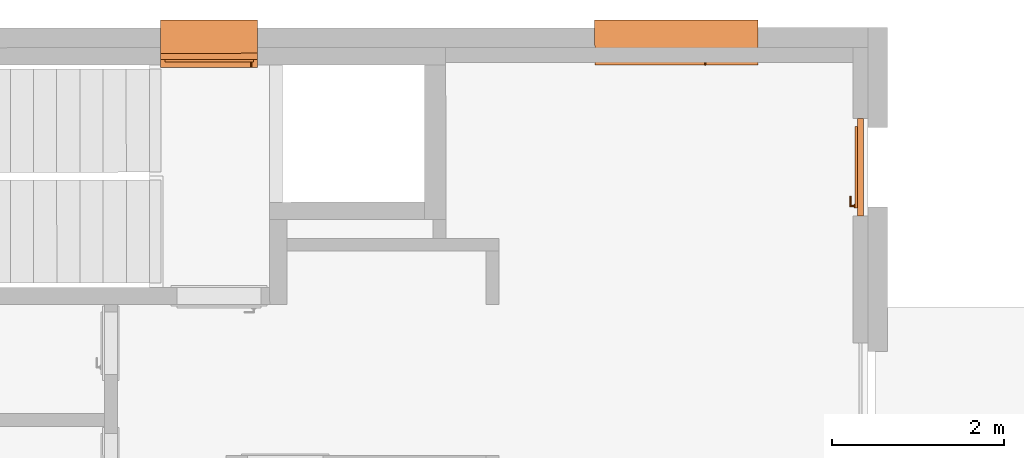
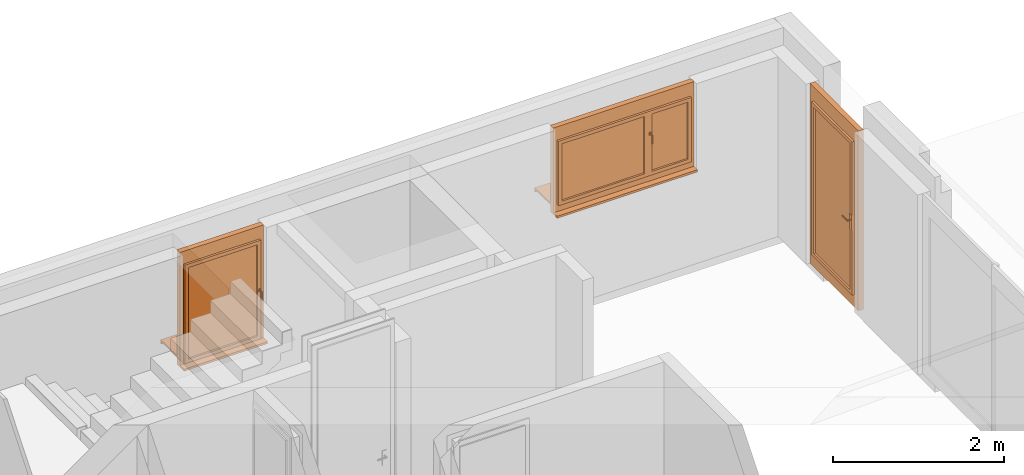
# One storey, part 8 of 8: 3 proxies.
"""IFC2X3 building model written with IfcOpenShell, lengths in metres."""

from ifc_helpers import new_model, entity, si_unit, converted_unit, derived_unit, direction, frame, origin, origin_with_axes, place, context, subcontext, project, spatial, closed_shell, open_shell, surface_model, source, transform, mapped, element, save


model = new_model("IFC2X3")

# Units and contexts
model_context = context("Model", 3, precision=1e-05, world=origin(), true_north=direction((0.772621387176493, -0.634867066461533)))
body_context = subcontext(model_context, "Body", "Model", "MODEL_VIEW")
ifc_project = project(units=[si_unit("LENGTHUNIT", "METRE"), si_unit("AREAUNIT", "SQUARE_METRE"), si_unit("VOLUMEUNIT", "CUBIC_METRE"), si_unit("MASSUNIT", "GRAM", prefix="KILO"), converted_unit("PLANEANGLEUNIT", "DEGREE", entity("IfcPlaneAngleMeasure", 0.0174532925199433), si_unit("PLANEANGLEUNIT", "RADIAN"), dimensions=[0, 0, 0, 0, 0, 0, 0]), derived_unit("THERMALTRANSMITTANCEUNIT", [(si_unit("POWERUNIT", "WATT"), 1), (si_unit("THERMODYNAMICTEMPERATUREUNIT", "KELVIN"), -1), (si_unit("LENGTHUNIT", "METRE"), -2)]), derived_unit("VOLUMETRICFLOWRATEUNIT", [(si_unit("LENGTHUNIT", "METRE"), 3), (converted_unit("TIMEUNIT", "hour", entity("IfcTimeMeasure", 3600.0), si_unit("TIMEUNIT", "SECOND"), dimensions=[0, 0, 1, 0, 0, 0, 0]), -1), (si_unit("LENGTHUNIT", "METRE"), -1)])], contexts=[model_context])

# Site, building, storey
site_placement = place(None, origin())
site = spatial("IfcSite", under=ifc_project, at=site_placement, Name="Modelle auf dem Nullpunkt", CompositionType="ELEMENT")
building_placement = place(site_placement, origin())
building = spatial("IfcBuilding", under=site, at=building_placement, Name="I", CompositionType="ELEMENT")
storey_placement = place(building_placement, origin())
storey = spatial("IfcBuildingStorey", under=building, at=storey_placement, Name="2.OG", CompositionType="ELEMENT", Elevation=0.0)

# Proxies
shared_shape_1 = source(origin_with_axes(), body_context, "Body", "SurfaceModel", [
    surface_model("IfcShellBasedSurfaceModel", [(1.90000000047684, 0.020000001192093, 0.1), (1.90000000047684, 0.020000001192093, 0.07), (1.90000000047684, 0.0, 0.07), (1.90000000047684, 0.0, 0.12), (1.9, 0.372500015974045, 0.13), (1.9, 0.372500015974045, 0.1), (0.0, 0.372500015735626, 0.1), (0.0, 0.372500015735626, 0.13), (0.0, 0.0, 0.12), (0.0, 0.0, 0.07), (0.0, 0.020000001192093, 0.07), (0.0, 0.020000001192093, 0.1)], [closed_shell([[[0, 1, 2, 3, 4, 5]], [[6, 7, 8, 9, 10, 11]], [[5, 6, 11, 0]], [[4, 7, 6, 5]], [[3, 8, 7, 4]], [[2, 9, 8, 3]], [[1, 10, 9, 2]], [[0, 11, 10, 1]]], orient=[[False], [False], [False], [False], [False], [False], [False], [False]])]),
    surface_model("IfcShellBasedSurfaceModel", [(1.90000000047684, 0.525000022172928, 0.0), (1.90000000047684, 0.412500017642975, 0.0), (1.90000000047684, 0.412500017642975, 0.03), (1.90000000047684, 0.525000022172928, 0.03), (0.0, 0.412500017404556, 0.0), (0.0, 0.525000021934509, 0.0), (0.0, 0.525000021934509, 0.03), (0.0, 0.412500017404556, 0.03)], [closed_shell([[[0, 1, 2, 3]], [[4, 5, 6, 7]], [[1, 0, 5, 4]], [[2, 1, 4, 7]], [[3, 2, 7, 6]], [[0, 3, 6, 5]]], orient=[[False], [False], [False], [False], [False], [False]])]),
    surface_model("IfcShellBasedSurfaceModel", [(1.90000000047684, 0.442500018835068, 1.24), (1.83000000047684, 0.442500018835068, 1.24), (1.83000000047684, 0.442500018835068, 0.0), (1.90000000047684, 0.442500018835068, 0.0), (1.9, 0.372500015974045, 0.0), (1.83000000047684, 0.372500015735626, 0.0), (1.83000000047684, 0.372500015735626, 1.24), (1.9, 0.372500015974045, 1.24)], [closed_shell([[[0, 1, 2, 3]], [[4, 5, 6, 7]], [[3, 4, 7, 0]], [[2, 5, 4, 3]], [[1, 6, 5, 2]], [[0, 7, 6, 1]]], orient=[[False], [False], [False], [False], [False], [False]])]),
    surface_model("IfcShellBasedSurfaceModel", [(0.07, 0.442500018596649, 1.24), (0.0, 0.442500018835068, 1.24), (0.0, 0.442500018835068, 0.0), (0.07, 0.442500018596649, 0.0), (0.07, 0.372500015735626, 0.0), (0.0, 0.372500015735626, 0.0), (0.0, 0.372500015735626, 1.24), (0.07, 0.372500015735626, 1.24)], [closed_shell([[[0, 1, 2, 3]], [[4, 5, 6, 7]], [[3, 4, 7, 0]], [[2, 5, 4, 3]], [[1, 6, 5, 2]], [[0, 7, 6, 1]]], orient=[[False], [False], [False], [False], [False], [False]])]),
    surface_model("IfcShellBasedSurfaceModel", [(1.83000000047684, 0.442500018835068, 0.15), (0.07, 0.442500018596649, 0.15), (0.07, 0.442500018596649, 0.0), (1.83000000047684, 0.442500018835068, 0.0), (1.83000000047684, 0.372500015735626, 0.0), (0.07, 0.372500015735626, 0.0), (0.07, 0.372500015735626, 0.15), (1.83000000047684, 0.372500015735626, 0.15)], [closed_shell([[[0, 1, 2, 3]], [[4, 5, 6, 7]], [[3, 4, 7, 0]], [[2, 5, 4, 3]], [[1, 6, 5, 2]], [[0, 7, 6, 1]]], orient=[[False], [False], [False], [False], [False], [False]])]),
    surface_model("IfcShellBasedSurfaceModel", [(1.83000000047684, 0.442500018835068, 1.24), (0.07, 0.442500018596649, 1.24), (0.07, 0.442500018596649, 1.03), (1.83000000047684, 0.442500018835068, 1.03), (1.83000000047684, 0.372500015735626, 1.03), (0.07, 0.372500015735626, 1.03), (0.07, 0.372500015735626, 1.24), (1.83000000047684, 0.372500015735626, 1.24)], [closed_shell([[[0, 1, 2, 3]], [[4, 5, 6, 7]], [[3, 4, 7, 0]], [[2, 5, 4, 3]], [[1, 6, 5, 2]], [[0, 7, 6, 1]]], orient=[[False], [False], [False], [False], [False], [False]])]),
    surface_model("IfcShellBasedSurfaceModel", [(1.85000000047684, 0.47250002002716, 1.05), (1.80000000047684, 0.47250002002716, 1.05), (1.80000000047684, 0.47250002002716, 0.13), (1.85000000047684, 0.47250002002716, 0.13), (1.85000000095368, 0.422500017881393, 0.13), (1.80000000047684, 0.422500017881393, 0.13), (1.80000000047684, 0.422500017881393, 1.05), (1.85000000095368, 0.422500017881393, 1.05)], [closed_shell([[[0, 1, 2, 3]], [[4, 5, 6, 7]], [[3, 4, 7, 0]], [[2, 5, 4, 3]], [[1, 6, 5, 2]], [[0, 7, 6, 1]]], orient=[[False], [False], [False], [False], [False], [False]])]),
    surface_model("IfcShellBasedSurfaceModel", [(0.688241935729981, 0.47250002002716, 1.05), (0.638241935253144, 0.47250002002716, 1.05), (0.638241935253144, 0.47250002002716, 0.13), (0.688241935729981, 0.47250002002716, 0.13), (0.688241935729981, 0.422500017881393, 0.13), (0.638241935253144, 0.422500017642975, 0.13), (0.638241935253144, 0.422500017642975, 1.05), (0.688241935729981, 0.422500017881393, 1.05)], [closed_shell([[[0, 1, 2, 3]], [[4, 5, 6, 7]], [[3, 4, 7, 0]], [[2, 5, 4, 3]], [[1, 6, 5, 2]], [[0, 7, 6, 1]]], orient=[[False], [False], [False], [False], [False], [False]])]),
    surface_model("IfcShellBasedSurfaceModel", [(1.80000000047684, 0.47250002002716, 0.18), (0.688241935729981, 0.47250002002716, 0.18), (0.688241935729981, 0.47250002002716, 0.13), (1.80000000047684, 0.47250002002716, 0.13), (1.80000000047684, 0.422500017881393, 0.13), (0.688241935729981, 0.422500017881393, 0.13), (0.688241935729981, 0.422500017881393, 0.18), (1.80000000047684, 0.422500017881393, 0.18)], [closed_shell([[[0, 1, 2, 3]], [[4, 5, 6, 7]], [[3, 4, 7, 0]], [[2, 5, 4, 3]], [[1, 6, 5, 2]], [[0, 7, 6, 1]]], orient=[[False], [False], [False], [False], [False], [False]])]),
    surface_model("IfcShellBasedSurfaceModel", [(1.80000000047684, 0.47250002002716, 1.05), (0.688241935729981, 0.47250002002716, 1.05), (0.688241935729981, 0.47250002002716, 1.0), (1.80000000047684, 0.47250002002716, 1.0), (1.80000000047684, 0.422500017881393, 1.0), (0.688241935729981, 0.422500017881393, 1.0), (0.688241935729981, 0.422500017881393, 1.05), (1.80000000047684, 0.422500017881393, 1.05)], [closed_shell([[[0, 1, 2, 3]], [[4, 5, 6, 7]], [[3, 4, 7, 0]], [[2, 5, 4, 3]], [[1, 6, 5, 2]], [[0, 7, 6, 1]]], orient=[[False], [False], [False], [False], [False], [False]])]),
    surface_model("IfcShellBasedSurfaceModel", [(0.663241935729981, 0.422500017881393, 1.03), (0.613241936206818, 0.422500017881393, 1.03), (0.613241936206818, 0.422500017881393, 0.15), (0.663241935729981, 0.422500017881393, 0.15), (0.663241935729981, 0.397500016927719, 0.15), (0.613241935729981, 0.397500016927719, 0.15), (0.613241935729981, 0.397500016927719, 1.03), (0.663241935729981, 0.397500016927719, 1.03)], [closed_shell([[[0, 1, 2, 3]], [[4, 5, 6, 7]], [[3, 4, 7, 0]], [[2, 5, 4, 3]], [[1, 6, 5, 2]], [[0, 7, 6, 1]]], orient=[[False], [False], [False], [False], [False], [False]])]),
    surface_model("IfcShellBasedSurfaceModel", [(0.637241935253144, 0.47250002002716, 1.05), (0.587241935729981, 0.47250002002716, 1.05), (0.587241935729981, 0.47250002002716, 0.13), (0.637241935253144, 0.47250002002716, 0.13), (0.637241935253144, 0.422500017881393, 0.13), (0.587241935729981, 0.422500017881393, 0.13), (0.587241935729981, 0.422500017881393, 1.05), (0.637241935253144, 0.422500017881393, 1.05)], [closed_shell([[[0, 1, 2, 3]], [[4, 5, 6, 7]], [[3, 4, 7, 0]], [[2, 5, 4, 3]], [[1, 6, 5, 2]], [[0, 7, 6, 1]]], orient=[[False], [False], [False], [False], [False], [False]])]),
    surface_model("IfcShellBasedSurfaceModel", [(0.1, 0.47250002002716, 1.05), (0.0499999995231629, 0.472500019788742, 1.05), (0.0499999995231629, 0.472500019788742, 0.13), (0.1, 0.47250002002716, 0.13), (0.1, 0.422500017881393, 0.13), (0.05, 0.422500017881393, 0.13), (0.05, 0.422500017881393, 1.05), (0.1, 0.422500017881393, 1.05)], [closed_shell([[[0, 1, 2, 3]], [[4, 5, 6, 7]], [[3, 4, 7, 0]], [[2, 5, 4, 3]], [[1, 6, 5, 2]], [[0, 7, 6, 1]]], orient=[[False], [False], [False], [False], [False], [False]])]),
    surface_model("IfcShellBasedSurfaceModel", [(0.587241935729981, 0.47250002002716, 0.18), (0.1, 0.47250002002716, 0.18), (0.1, 0.47250002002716, 0.13), (0.587241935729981, 0.47250002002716, 0.13), (0.587241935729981, 0.422500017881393, 0.13), (0.1, 0.422500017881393, 0.13), (0.1, 0.422500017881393, 0.18), (0.587241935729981, 0.422500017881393, 0.18)], [closed_shell([[[0, 1, 2, 3]], [[4, 5, 6, 7]], [[3, 4, 7, 0]], [[2, 5, 4, 3]], [[1, 6, 5, 2]], [[0, 7, 6, 1]]], orient=[[False], [False], [False], [False], [False], [False]])]),
    surface_model("IfcShellBasedSurfaceModel", [(0.587241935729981, 0.47250002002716, 1.05), (0.1, 0.47250002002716, 1.05), (0.1, 0.47250002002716, 1.0), (0.587241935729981, 0.47250002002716, 1.0), (0.587241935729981, 0.422500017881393, 1.0), (0.1, 0.422500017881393, 1.0), (0.1, 0.422500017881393, 1.05), (0.587241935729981, 0.422500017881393, 1.05)], [closed_shell([[[0, 1, 2, 3]], [[4, 5, 6, 7]], [[3, 4, 7, 0]], [[2, 5, 4, 3]], [[1, 6, 5, 2]], [[0, 7, 6, 1]]], orient=[[False], [False], [False], [False], [False], [False]])]),
    surface_model("IfcShellBasedSurfaceModel", [(0.624741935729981, 0.47250002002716, 0.75), (0.624741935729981, 0.47250002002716, 0.71), (0.599741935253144, 0.47250002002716, 0.71), (0.599741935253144, 0.47250002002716, 0.75), (0.624741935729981, 0.482500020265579, 0.71), (0.624741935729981, 0.482500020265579, 0.75), (0.599741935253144, 0.482500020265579, 0.75), (0.599741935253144, 0.482500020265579, 0.71)], [closed_shell([[[0, 1, 2, 3]], [[4, 5, 6, 7]], [[1, 0, 5, 4]], [[2, 1, 4, 7]], [[3, 2, 7, 6]], [[0, 3, 6, 5]]], orient=[[False], [False], [False], [False], [False], [False]])]),
    surface_model("IfcShellBasedSurfaceModel", [(0.602241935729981, 0.482500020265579, 0.73), (0.603581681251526, 0.482500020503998, 0.735), (0.607241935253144, 0.482500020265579, 0.738660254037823), (0.612241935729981, 0.482500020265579, 0.74), (0.617241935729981, 0.482500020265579, 0.738660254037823), (0.620902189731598, 0.482500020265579, 0.735), (0.622241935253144, 0.482500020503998, 0.73), (0.620902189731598, 0.482500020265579, 0.725), (0.617241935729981, 0.482500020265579, 0.721339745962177), (0.612241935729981, 0.482500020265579, 0.72), (0.607241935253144, 0.482500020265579, 0.721339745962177), (0.603581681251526, 0.482500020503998, 0.725), (0.602241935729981, 0.522500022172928, 0.73), (0.603581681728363, 0.527500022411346, 0.735), (0.607241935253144, 0.531160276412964, 0.738660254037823), (0.612241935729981, 0.532500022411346, 0.74), (0.617241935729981, 0.531160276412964, 0.738660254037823), (0.620902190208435, 0.527500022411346, 0.735), (0.622241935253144, 0.522500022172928, 0.73), (0.620902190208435, 0.51750002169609, 0.725), (0.617241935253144, 0.513839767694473, 0.721339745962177), (0.612241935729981, 0.51250002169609, 0.72), (0.607241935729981, 0.513839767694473, 0.721339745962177), (0.603581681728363, 0.517500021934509, 0.725), (0.602241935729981, 0.522500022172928, 0.615), (0.603581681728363, 0.517500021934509, 0.615), (0.607241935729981, 0.513839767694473, 0.615), (0.612241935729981, 0.51250002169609, 0.615), (0.617241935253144, 0.513839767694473, 0.615), (0.620902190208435, 0.51750002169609, 0.615), (0.622241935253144, 0.522500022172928, 0.615), (0.620902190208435, 0.527500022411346, 0.615), (0.617241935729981, 0.531160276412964, 0.615), (0.612241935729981, 0.532500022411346, 0.615), (0.607241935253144, 0.531160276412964, 0.615), (0.603581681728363, 0.527500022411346, 0.615)], [closed_shell([[[0, 1, 2, 3, 4, 5, 6, 7, 8, 9, 10, 11]], [[0, 12, 13, 1]], [[1, 13, 14, 2]], [[2, 14, 15, 3]], [[3, 15, 16, 4]], [[4, 16, 17, 5]], [[5, 17, 18, 6]], [[6, 18, 19, 7]], [[7, 19, 20, 8]], [[8, 20, 21, 9]], [[9, 21, 22, 10]], [[10, 22, 23, 11]], [[11, 23, 12, 0]], [[24, 25, 26, 27, 28, 29, 30, 31, 32, 33, 34, 35]], [[12, 24, 35, 13]], [[13, 35, 34, 14]], [[14, 34, 33, 15]], [[15, 33, 32, 16]], [[16, 32, 31, 17]], [[17, 31, 30, 18]], [[18, 30, 29, 19]], [[19, 29, 28, 20]], [[20, 28, 27, 21]], [[21, 27, 26, 22]], [[22, 26, 25, 23]], [[23, 25, 24, 12]]], orient=[[False], [False], [False], [False], [False], [False], [False], [False], [False], [False], [False], [False], [False], [False], [False], [False], [False], [False], [False], [False], [False], [False], [False], [False], [False], [False]])]),
    surface_model("IfcShellBasedSurfaceModel", [(1.80000000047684, 0.447500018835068, 0.18), (1.80000000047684, 0.447500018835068, 1.0), (0.688241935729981, 0.447500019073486, 1.0), (0.688241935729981, 0.447500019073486, 0.18)], [open_shell([[[0, 1, 2, 3]]], orient=[[False]])]),
    surface_model("IfcShellBasedSurfaceModel", [(0.587241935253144, 0.447500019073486, 0.18), (0.587241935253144, 0.447500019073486, 1.0), (0.1, 0.447500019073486, 1.0), (0.1, 0.447500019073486, 0.18)], [open_shell([[[0, 1, 2, 3]]], orient=[[False]])]),
])
proxy_1_placement = place(storey_placement, frame((39.7468340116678, 2.46028323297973, 443.0), z_axis=(0.0, 0.0, 1.0), x_axis=(-0.999999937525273, -0.000353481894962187, 0.0)))
element("IfcBuildingElementProxy", 1, at=proxy_1_placement, inside=storey, Name="2flg Weiß Stulp", context=body_context, shape_type="MappedRepresentation", body=[
    mapped(shared_shape_1, transform((0.0, 0.0, 0.0), x_axis=(1.0, 0.0, 0.0), y_axis=(0.0, 1.0, 0.0), z_axis=(0.0, 0.0, 1.0), scale=1.0)),
])
shared_shape_2 = source(origin_with_axes(), body_context, "Body", "SurfaceModel", [
    surface_model("IfcShellBasedSurfaceModel", [(0.0, 0.0199999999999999, 0.1), (0.0, 0.385, 0.1), (0.0, 0.385, 0.13), (0.0, 0.0, 0.12), (0.0, 0.0, 0.07), (0.0, 0.0199999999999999, 0.07), (1.13, 0.385, 0.1), (1.13, 0.0199999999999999, 0.1), (1.13, 0.0199999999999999, 0.0700000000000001), (1.13, 0.0, 0.0700000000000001), (1.13, 0.0, 0.12), (1.13, 0.385, 0.13)], [closed_shell([[[0, 1, 2, 3, 4, 5]], [[6, 7, 8, 9, 10, 11]], [[1, 0, 7, 6]], [[2, 1, 6, 11]], [[3, 2, 11, 10]], [[4, 3, 10, 9]], [[5, 4, 9, 8]], [[0, 5, 8, 7]]], orient=[[False], [False], [False], [False], [False], [False], [False], [False]])]),
    surface_model("IfcShellBasedSurfaceModel", [(0.0, 0.55, 0.0), (0.0, 0.55, 0.03), (0.0, 0.425, 0.03), (0.0, 0.425, 0.0), (1.13, 0.425, 0.0), (1.13, 0.425, 0.0300000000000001), (1.13, 0.55, 0.0300000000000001), (1.13, 0.55, 0.0)], [closed_shell([[[0, 1, 2, 3]], [[4, 5, 6, 7]], [[3, 4, 7, 0]], [[2, 5, 4, 3]], [[1, 6, 5, 2]], [[0, 7, 6, 1]]], orient=[[False], [False], [False], [False], [False], [False]])]),
    surface_model("IfcShellBasedSurfaceModel", [(0.0, 0.455, 1.64), (0.0, 0.455, 0.0), (0.07, 0.455, 0.0), (0.07, 0.455, 1.64), (0.0, 0.385, 0.0), (0.0, 0.385, 1.64), (0.07, 0.385, 1.64), (0.07, 0.385, 0.0)], [closed_shell([[[0, 1, 2, 3]], [[4, 5, 6, 7]], [[1, 0, 5, 4]], [[2, 1, 4, 7]], [[3, 2, 7, 6]], [[0, 3, 6, 5]]], orient=[[False], [False], [False], [False], [False], [False]])]),
    surface_model("IfcShellBasedSurfaceModel", [(1.06, 0.455, 1.64), (1.06, 0.455, 0.0), (1.13, 0.455, 0.0), (1.13, 0.455, 1.64), (1.06, 0.385, 0.0), (1.06, 0.385, 1.64), (1.13, 0.385, 1.64), (1.13, 0.385, 0.0)], [closed_shell([[[0, 1, 2, 3]], [[4, 5, 6, 7]], [[1, 0, 5, 4]], [[2, 1, 4, 7]], [[3, 2, 7, 6]], [[0, 3, 6, 5]]], orient=[[False], [False], [False], [False], [False], [False]])]),
    surface_model("IfcShellBasedSurfaceModel", [(0.07, 0.455, 0.07), (0.07, 0.455, 0.0), (1.06, 0.455, 0.0), (1.06, 0.455, 0.07), (0.07, 0.385, 0.0), (0.07, 0.385, 0.07), (1.06, 0.385, 0.07), (1.06, 0.385, 0.0)], [closed_shell([[[0, 1, 2, 3]], [[4, 5, 6, 7]], [[1, 0, 5, 4]], [[2, 1, 4, 7]], [[3, 2, 7, 6]], [[0, 3, 6, 5]]], orient=[[False], [False], [False], [False], [False], [False]])]),
    surface_model("IfcShellBasedSurfaceModel", [(0.07, 0.455, 1.64), (0.07, 0.455, 1.44), (1.06, 0.455, 1.44), (1.06, 0.455, 1.64), (0.07, 0.385, 1.44), (0.07, 0.385, 1.64), (1.06, 0.385, 1.64), (1.06, 0.385, 1.44)], [closed_shell([[[0, 1, 2, 3]], [[4, 5, 6, 7]], [[1, 0, 5, 4]], [[2, 1, 4, 7]], [[3, 2, 7, 6]], [[0, 3, 6, 5]]], orient=[[False], [False], [False], [False], [False], [False]])]),
    surface_model("IfcShellBasedSurfaceModel", [(0.05, 0.485, 1.46), (0.05, 0.485, 0.05), (0.1, 0.485, 0.05), (0.1, 0.485, 1.46), (0.05, 0.435, 0.05), (0.05, 0.435, 1.46), (0.1, 0.435, 1.46), (0.1, 0.435, 0.05)], [closed_shell([[[0, 1, 2, 3]], [[4, 5, 6, 7]], [[1, 0, 5, 4]], [[2, 1, 4, 7]], [[3, 2, 7, 6]], [[0, 3, 6, 5]]], orient=[[False], [False], [False], [False], [False], [False]])]),
    surface_model("IfcShellBasedSurfaceModel", [(1.03, 0.485, 1.46), (1.03, 0.485, 0.05), (1.08, 0.485, 0.05), (1.08, 0.485, 1.46), (1.03, 0.435, 0.05), (1.03, 0.435, 1.46), (1.08, 0.435, 1.46), (1.08, 0.435, 0.05)], [closed_shell([[[0, 1, 2, 3]], [[4, 5, 6, 7]], [[1, 0, 5, 4]], [[2, 1, 4, 7]], [[3, 2, 7, 6]], [[0, 3, 6, 5]]], orient=[[False], [False], [False], [False], [False], [False]])]),
    surface_model("IfcShellBasedSurfaceModel", [(0.1, 0.485, 0.1), (0.1, 0.485, 0.05), (1.03, 0.485, 0.05), (1.03, 0.485, 0.1), (0.1, 0.435, 0.05), (0.1, 0.435, 0.1), (1.03, 0.435, 0.1), (1.03, 0.435, 0.05)], [closed_shell([[[0, 1, 2, 3]], [[4, 5, 6, 7]], [[1, 0, 5, 4]], [[2, 1, 4, 7]], [[3, 2, 7, 6]], [[0, 3, 6, 5]]], orient=[[False], [False], [False], [False], [False], [False]])]),
    surface_model("IfcShellBasedSurfaceModel", [(0.1, 0.485, 1.46), (0.1, 0.485, 1.41), (1.03, 0.485, 1.41), (1.03, 0.485, 1.46), (0.1, 0.435, 1.41), (0.1, 0.435, 1.46), (1.03, 0.435, 1.46), (1.03, 0.435, 1.41)], [closed_shell([[[0, 1, 2, 3]], [[4, 5, 6, 7]], [[1, 0, 5, 4]], [[2, 1, 4, 7]], [[3, 2, 7, 6]], [[0, 3, 6, 5]]], orient=[[False], [False], [False], [False], [False], [False]])]),
    surface_model("IfcShellBasedSurfaceModel", [(0.0625, 0.485, 0.775), (0.0875, 0.485, 0.775), (0.0875, 0.485, 0.735), (0.0625, 0.485, 0.735), (0.0625, 0.495, 0.735), (0.0875, 0.495, 0.735), (0.0875, 0.495, 0.775), (0.0625, 0.495, 0.775)], [closed_shell([[[0, 1, 2, 3]], [[4, 5, 6, 7]], [[3, 4, 7, 0]], [[2, 5, 4, 3]], [[1, 6, 5, 2]], [[0, 7, 6, 1]]], orient=[[False], [False], [False], [False], [False], [False]])]),
    surface_model("IfcShellBasedSurfaceModel", [(0.085, 0.495, 0.755), (0.0836602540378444, 0.495, 0.75), (0.08, 0.495, 0.746339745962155), (0.075, 0.495, 0.745), (0.07, 0.495, 0.746339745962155), (0.0663397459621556, 0.495, 0.75), (0.065, 0.495, 0.755), (0.0663397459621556, 0.495, 0.76), (0.07, 0.495, 0.763660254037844), (0.075, 0.495, 0.765), (0.08, 0.495, 0.763660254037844), (0.0836602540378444, 0.495, 0.76), (0.0836602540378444, 0.54, 0.76), (0.085, 0.535, 0.755), (0.08, 0.543660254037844, 0.763660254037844), (0.075, 0.545, 0.765), (0.07, 0.543660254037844, 0.763660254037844), (0.0663397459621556, 0.54, 0.76), (0.065, 0.535, 0.755), (0.0663397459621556, 0.53, 0.75), (0.07, 0.526339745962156, 0.746339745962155), (0.075, 0.525, 0.745), (0.08, 0.526339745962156, 0.746339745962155), (0.0836602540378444, 0.53, 0.75), (0.085, 0.535, 0.64), (0.0836602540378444, 0.54, 0.64), (0.08, 0.543660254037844, 0.64), (0.075, 0.545, 0.64), (0.07, 0.543660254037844, 0.64), (0.0663397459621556, 0.54, 0.64), (0.065, 0.535, 0.64), (0.0663397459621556, 0.53, 0.64), (0.07, 0.526339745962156, 0.64), (0.075, 0.525, 0.64), (0.08, 0.526339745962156, 0.64), (0.0836602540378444, 0.53, 0.64)], [closed_shell([[[0, 1, 2, 3, 4, 5, 6, 7, 8, 9, 10, 11]], [[0, 11, 12, 13]], [[11, 10, 14, 12]], [[10, 9, 15, 14]], [[9, 8, 16, 15]], [[8, 7, 17, 16]], [[7, 6, 18, 17]], [[6, 5, 19, 18]], [[5, 4, 20, 19]], [[4, 3, 21, 20]], [[3, 2, 22, 21]], [[2, 1, 23, 22]], [[1, 0, 13, 23]], [[24, 25, 26, 27, 28, 29, 30, 31, 32, 33, 34, 35]], [[13, 12, 25, 24]], [[12, 14, 26, 25]], [[14, 15, 27, 26]], [[15, 16, 28, 27]], [[16, 17, 29, 28]], [[17, 18, 30, 29]], [[18, 19, 31, 30]], [[19, 20, 32, 31]], [[20, 21, 33, 32]], [[21, 22, 34, 33]], [[22, 23, 35, 34]], [[23, 13, 24, 35]]], orient=[[False], [False], [False], [False], [False], [False], [False], [False], [False], [False], [False], [False], [False], [False], [False], [False], [False], [False], [False], [False], [False], [False], [False], [False], [False], [False]])]),
    surface_model("IfcShellBasedSurfaceModel", [(0.1, 0.46, 0.1), (1.03, 0.46, 0.1), (1.03, 0.46, 1.41), (0.1, 0.46, 1.41)], [open_shell([[[0, 1, 2, 3]]], orient=[[False]])]),
])
proxy_2_placement = place(storey_placement, frame((33.921834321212, 2.4582241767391, 442.6), z_axis=(0.0, 0.0, 1.00000000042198), x_axis=(-0.999999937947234, -0.000353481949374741, 0.0)))
element("IfcBuildingElementProxy", 2, at=proxy_2_placement, inside=storey, Name="2flg Weiß Stulp", context=body_context, shape_type="MappedRepresentation", body=[
    mapped(shared_shape_2, transform((0.0, 0.0, 0.0), x_axis=(1.0, 0.0, 0.0), y_axis=(0.0, 1.0, 0.0), z_axis=(0.0, 0.0, 1.0), scale=1.00000000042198)),
])
shared_shape_3 = source(origin_with_axes(), body_context, "Body", "SurfaceModel", [
    surface_model("IfcShellBasedSurfaceModel", [(0.0, 0.0699999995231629, 2.57), (0.0, 0.0699999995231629, 0.0), (0.10999999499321, 0.0699999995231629, 0.0), (0.10999999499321, 0.0699999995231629, 2.57), (0.0, 0.0, 0.0), (0.0, 0.0, 2.57), (0.10999999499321, 0.0, 2.57), (0.10999999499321, 0.0, 0.0)], [closed_shell([[[0, 1, 2, 3]], [[4, 5, 6, 7]], [[1, 0, 5, 4]], [[2, 1, 4, 7]], [[3, 2, 7, 6]], [[0, 3, 6, 5]]], orient=[[False], [False], [False], [False], [False], [False]])]),
    surface_model("IfcShellBasedSurfaceModel", [(1.01999999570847, 0.0699999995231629, 2.57), (1.01999999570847, 0.0699999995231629, 0.0), (1.12999999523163, 0.07, 0.0), (1.12999999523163, 0.07, 2.57), (1.01999999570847, 0.0, 0.0), (1.01999999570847, 0.0, 2.57), (1.12999999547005, 0.0, 2.57), (1.12999999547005, 0.0, 0.0)], [closed_shell([[[0, 1, 2, 3]], [[4, 5, 6, 7]], [[1, 0, 5, 4]], [[2, 1, 4, 7]], [[3, 2, 7, 6]], [[0, 3, 6, 5]]], orient=[[False], [False], [False], [False], [False], [False]])]),
    surface_model("IfcShellBasedSurfaceModel", [(0.10999999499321, 0.0699999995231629, 0.2), (0.10999999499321, 0.0699999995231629, 0.0), (1.01999999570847, 0.0699999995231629, 0.0), (1.01999999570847, 0.0699999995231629, 0.2), (0.10999999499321, 0.0, 0.0), (0.10999999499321, 0.0, 0.2), (1.01999999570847, 0.0, 0.2), (1.01999999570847, 0.0, 0.0)], [closed_shell([[[0, 1, 2, 3]], [[4, 5, 6, 7]], [[1, 0, 5, 4]], [[2, 1, 4, 7]], [[3, 2, 7, 6]], [[0, 3, 6, 5]]], orient=[[False], [False], [False], [False], [False], [False]])]),
    surface_model("IfcShellBasedSurfaceModel", [(0.10999999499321, 0.0699999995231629, 2.57), (0.10999999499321, 0.0699999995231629, 2.35), (1.01999999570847, 0.0699999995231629, 2.35), (1.01999999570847, 0.0699999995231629, 2.57), (0.10999999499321, 0.0, 2.35), (0.10999999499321, 0.0, 2.57), (1.01999999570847, 0.0, 2.57), (1.01999999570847, 0.0, 2.35)], [closed_shell([[[0, 1, 2, 3]], [[4, 5, 6, 7]], [[1, 0, 5, 4]], [[2, 1, 4, 7]], [[3, 2, 7, 6]], [[0, 3, 6, 5]]], orient=[[False], [False], [False], [False], [False], [False]])]),
    surface_model("IfcShellBasedSurfaceModel", [(0.0899999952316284, 0.0999999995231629, 2.37), (0.0899999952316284, 0.0999999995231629, 0.18), (0.13999999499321, 0.0999999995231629, 0.18), (0.13999999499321, 0.0999999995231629, 2.37), (0.0899999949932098, 0.0499999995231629, 0.18), (0.0899999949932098, 0.0499999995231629, 2.37), (0.139999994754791, 0.0499999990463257, 2.37), (0.139999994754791, 0.0499999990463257, 0.18)], [closed_shell([[[0, 1, 2, 3]], [[4, 5, 6, 7]], [[1, 0, 5, 4]], [[2, 1, 4, 7]], [[3, 2, 7, 6]], [[0, 3, 6, 5]]], orient=[[False], [False], [False], [False], [False], [False]])]),
    surface_model("IfcShellBasedSurfaceModel", [(0.989999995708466, 0.0999999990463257, 2.37), (0.989999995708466, 0.0999999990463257, 0.18), (1.03999999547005, 0.0999999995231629, 0.18), (1.03999999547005, 0.0999999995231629, 2.37), (0.989999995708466, 0.0499999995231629, 0.18), (0.989999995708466, 0.0499999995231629, 2.37), (1.03999999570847, 0.0499999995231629, 2.37), (1.03999999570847, 0.0499999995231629, 0.18)], [closed_shell([[[0, 1, 2, 3]], [[4, 5, 6, 7]], [[1, 0, 5, 4]], [[2, 1, 4, 7]], [[3, 2, 7, 6]], [[0, 3, 6, 5]]], orient=[[False], [False], [False], [False], [False], [False]])]),
    surface_model("IfcShellBasedSurfaceModel", [(0.13999999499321, 0.0999999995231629, 0.23), (0.13999999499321, 0.0999999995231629, 0.18), (0.989999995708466, 0.0999999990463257, 0.18), (0.989999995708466, 0.0999999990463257, 0.23), (0.139999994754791, 0.0499999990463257, 0.18), (0.139999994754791, 0.0499999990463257, 0.23), (0.989999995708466, 0.0499999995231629, 0.23), (0.989999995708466, 0.0499999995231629, 0.18)], [closed_shell([[[0, 1, 2, 3]], [[4, 5, 6, 7]], [[1, 0, 5, 4]], [[2, 1, 4, 7]], [[3, 2, 7, 6]], [[0, 3, 6, 5]]], orient=[[False], [False], [False], [False], [False], [False]])]),
    surface_model("IfcShellBasedSurfaceModel", [(0.13999999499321, 0.0999999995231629, 2.37), (0.13999999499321, 0.0999999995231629, 2.32), (0.989999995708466, 0.0999999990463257, 2.32), (0.989999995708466, 0.0999999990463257, 2.37), (0.139999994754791, 0.0499999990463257, 2.32), (0.139999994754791, 0.0499999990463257, 2.37), (0.989999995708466, 0.0499999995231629, 2.37), (0.989999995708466, 0.0499999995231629, 2.32)], [closed_shell([[[0, 1, 2, 3]], [[4, 5, 6, 7]], [[1, 0, 5, 4]], [[2, 1, 4, 7]], [[3, 2, 7, 6]], [[0, 3, 6, 5]]], orient=[[False], [False], [False], [False], [False], [False]])]),
    surface_model("IfcShellBasedSurfaceModel", [(0.0899999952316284, 0.0999999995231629, 1.325), (0.13999999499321, 0.0999999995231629, 1.325), (0.13999999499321, 0.0999999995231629, 1.11), (0.0899999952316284, 0.0999999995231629, 1.11), (0.0899999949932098, 0.109999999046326, 1.11), (0.13999999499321, 0.109999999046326, 1.11), (0.13999999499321, 0.109999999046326, 1.325), (0.0899999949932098, 0.109999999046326, 1.325)], [closed_shell([[[0, 1, 2, 3]], [[4, 5, 6, 7]], [[3, 4, 7, 0]], [[2, 5, 4, 3]], [[1, 6, 5, 2]], [[0, 7, 6, 1]]], orient=[[False], [False], [False], [False], [False], [False]])]),
    surface_model("IfcShellBasedSurfaceModel", [(0.11499999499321, 0.109999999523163, 1.26), (0.119999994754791, 0.109999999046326, 1.25866025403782), (0.123660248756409, 0.109999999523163, 1.255), (0.12499999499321, 0.109999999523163, 1.25), (0.123660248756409, 0.109999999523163, 1.245), (0.119999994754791, 0.109999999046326, 1.24133974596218), (0.11499999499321, 0.109999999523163, 1.24), (0.10999999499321, 0.109999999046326, 1.24133974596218), (0.106339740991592, 0.109999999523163, 1.245), (0.10499999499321, 0.109999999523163, 1.25), (0.106339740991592, 0.109999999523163, 1.255), (0.10999999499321, 0.109999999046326, 1.25866025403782), (0.109999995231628, 0.154999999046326, 1.25866025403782), (0.114999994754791, 0.149999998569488, 1.26), (0.106339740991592, 0.158660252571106, 1.255), (0.10499999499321, 0.159999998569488, 1.25), (0.106339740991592, 0.158660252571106, 1.245), (0.109999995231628, 0.154999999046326, 1.24133974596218), (0.114999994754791, 0.149999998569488, 1.24), (0.11999999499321, 0.144999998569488, 1.24133974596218), (0.123660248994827, 0.141339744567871, 1.245), (0.12499999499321, 0.139999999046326, 1.25), (0.123660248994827, 0.141339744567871, 1.255), (0.11999999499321, 0.144999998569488, 1.25866025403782), (0.229999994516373, 0.149999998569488, 1.26), (0.229999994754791, 0.154999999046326, 1.25866025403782), (0.229999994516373, 0.158660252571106, 1.255), (0.229999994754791, 0.159999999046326, 1.25), (0.229999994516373, 0.158660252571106, 1.245), (0.229999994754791, 0.154999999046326, 1.24133974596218), (0.229999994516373, 0.149999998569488, 1.24), (0.229999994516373, 0.144999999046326, 1.24133974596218), (0.229999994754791, 0.141339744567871, 1.245), (0.229999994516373, 0.139999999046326, 1.25), (0.229999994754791, 0.141339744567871, 1.255), (0.229999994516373, 0.144999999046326, 1.25866025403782)], [closed_shell([[[0, 1, 2, 3, 4, 5, 6, 7, 8, 9, 10, 11]], [[0, 11, 12, 13]], [[11, 10, 14, 12]], [[10, 9, 15, 14]], [[9, 8, 16, 15]], [[8, 7, 17, 16]], [[7, 6, 18, 17]], [[6, 5, 19, 18]], [[5, 4, 20, 19]], [[4, 3, 21, 20]], [[3, 2, 22, 21]], [[2, 1, 23, 22]], [[1, 0, 13, 23]], [[24, 25, 26, 27, 28, 29, 30, 31, 32, 33, 34, 35]], [[13, 12, 25, 24]], [[12, 14, 26, 25]], [[14, 15, 27, 26]], [[15, 16, 28, 27]], [[16, 17, 29, 28]], [[17, 18, 30, 29]], [[18, 19, 31, 30]], [[19, 20, 32, 31]], [[20, 21, 33, 32]], [[21, 22, 34, 33]], [[22, 23, 35, 34]], [[23, 13, 24, 35]]], orient=[[False], [False], [False], [False], [False], [False], [False], [False], [False], [False], [False], [False], [False], [False], [False], [False], [False], [False], [False], [False], [False], [False], [False], [False], [False], [False]])]),
    surface_model("IfcShellBasedSurfaceModel", [(0.13999999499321, 0.0749999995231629, 0.23), (0.989999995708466, 0.0749999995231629, 0.23), (0.989999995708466, 0.0749999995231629, 2.32), (0.13999999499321, 0.0749999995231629, 2.32)], [open_shell([[[0, 1, 2, 3]]], orient=[[False]])]),
])
proxy_3_placement = place(storey_placement, frame((40.9751398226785, 0.180717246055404, 441.67), z_axis=(0.0, 0.0, 1.0), x_axis=(-0.000353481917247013, 0.999999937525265, 0.0)))
element("IfcBuildingElementProxy", 3, at=proxy_3_placement, inside=storey, Name="1flg Weiß Blockzarge", ObjectType="DOOR", context=body_context, shape_type="MappedRepresentation", body=[
    mapped(shared_shape_3, transform((0.0, 0.0, 0.0), x_axis=(1.0, 0.0, 0.0), y_axis=(0.0, 1.0, 0.0), z_axis=(0.0, 0.0, 1.0), scale=1.0)),
])

save(model, "model.ifc")
